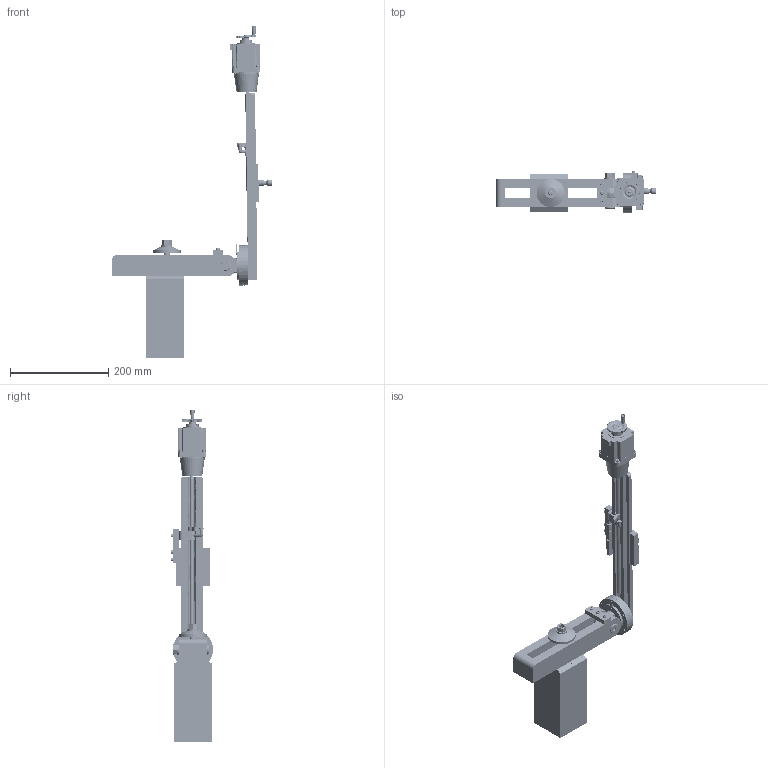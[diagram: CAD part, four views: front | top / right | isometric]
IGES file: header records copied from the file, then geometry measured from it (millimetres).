
Start section: Comment
Global section: file name: nex gen mill column 1 24 19.igs; native system:  By Spatial Corp.; preprocessor: XPlus PS/IGES 3.0; author: Author; organization: Title; date: 20190124.190648; units: inch
Bounding box: 325.6 x 85.6 x 675.93 mm (x, y, z)
Surface area: 340053 mm2 (no closed solid volume)
Topology: 0 solids, 0 shells, 4042 faces, 22430 edges, 22422 vertices
Faces by surface type: revolution 2317, extrusion 1693, bspline 32
